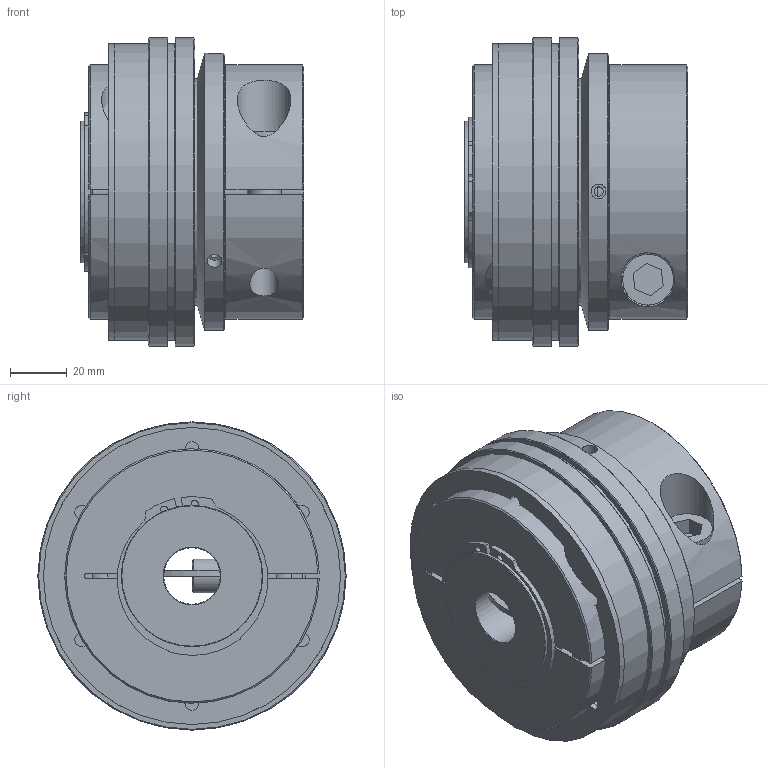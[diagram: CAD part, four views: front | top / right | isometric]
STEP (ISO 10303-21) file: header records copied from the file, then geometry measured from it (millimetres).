
FILE_DESCRIPTION( ( 'Unknown' ), '1' );
FILE_NAME( 'C:/Dokumente und Einstellungen/Sven/Desktop/hp kbk/KBK L-K-200.stp', 'Unknown', ( 'Unknown' ), ( 'Unknown' ), 'XStep 1.0', 'Unknown', ' ' );
FILE_SCHEMA( ( 'automotive_design' ) );
Length unit declared in the file: millimetre
Products named in the file (13): Assem1; Assem2; Assem3; Zylinderschraube DIN 912_2; ball_bearing_-_6010_0_01; ball_bearing_-_6010_0_02; ball_bearing_-_6010_0_03; Stellring 200; Druckring 200; a_50; KBK L-K-200 Grundkörper; Klemmnabe 200; Flansch 200
Bounding box: 79 x 109 x 109 mm (x, y, z)
Surface area: 299416.3 mm2
Topology: 24 solids, 24 shells, 320 faces, 670 edges, 436 vertices
Faces by surface type: cylinder 124, plane 120, cone 49, torus 27
Full cylindrical faces by diameter (mm): 2.5 x4, 3.242 x6, 4.917 x12, 5.2 x12, 10.106 x2, 12 x3, 12.5 x2, 18 x3, 19 x2, 20 x2, 45 x2, 47 x2, 50 x7, 59.7 x6, 62 x2, 66 x4, 70.6 x6, 72 x2, 77 x2, 80 x5, 90 x2, 98 x2, 105 x4, 109 x2
Entity records: 4292 total; most frequent: CARTESIAN_POINT 1084, DIRECTION 644, ORIENTED_EDGE 418, AXIS2_PLACEMENT_3D 297, EDGE_LOOP 264, EDGE_CURVE 209, FACE_OUTER_BOUND 197, VERTEX_POINT 177
